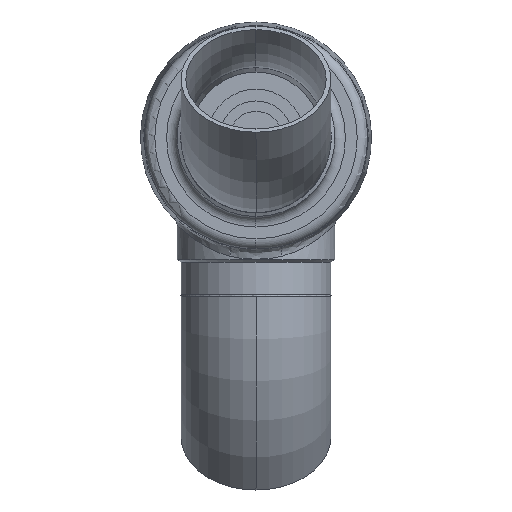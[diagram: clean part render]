
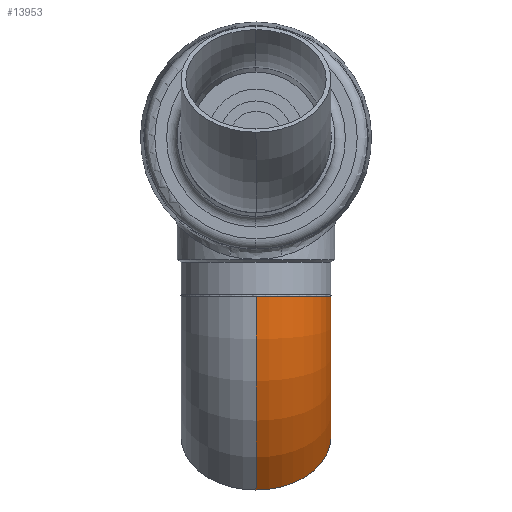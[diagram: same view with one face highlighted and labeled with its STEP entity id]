
A CAD part, front view. The second image highlights one B-rep face of the part: STEP entity #13953.
In plain terms, the highlighted toroidal (fillet/blend) face has major radius 152 mm and minor radius 57.15 mm.
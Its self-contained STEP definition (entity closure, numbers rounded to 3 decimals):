
#148 = VERTEX_POINT ( 'NONE', #15411 ) ;
#361 = EDGE_CURVE ( 'NONE', #1412, #148, #15739, .T. ) ;
#626 = CIRCLE ( 'NONE', #627, 94.85 ) ;
#627 = AXIS2_PLACEMENT_3D ( 'NONE', #628, #629, #630 ) ;
#628 = CARTESIAN_POINT ( 'NONE',  ( 0., -152., 0. ) ) ;
#629 = DIRECTION ( 'NONE',  ( 0., 0., 1. ) ) ;
#630 = DIRECTION ( 'NONE',  ( 1., 0., 0. ) ) ;
#17367 = EDGE_CURVE ( 'NONE', #1234, #18229, #626, .T. ) ;
#1234 = VERTEX_POINT ( 'NONE', #18268 ) ;
#1412 = VERTEX_POINT ( 'NONE', #18358 ) ;
#18229 = VERTEX_POINT ( 'NONE', #7231 ) ;
#18268 = CARTESIAN_POINT ( 'NONE',  ( 67.069, -84.931, 0. ) ) ;
#18358 = CARTESIAN_POINT ( 'NONE',  ( 147.891, -4.109, 0. ) ) ;
#18737 = CIRCLE ( 'NONE', #18738, 57.15 ) ;
#18738 = AXIS2_PLACEMENT_3D ( 'NONE', #18739, #18740, #18741 ) ;
#18739 = CARTESIAN_POINT ( 'NONE',  ( 0., 0., 0. ) ) ;
#18740 = DIRECTION ( 'NONE',  ( 1., 0., 0. ) ) ;
#18741 = DIRECTION ( 'NONE',  ( 0., 0., -1. ) ) ;
#6486 = CIRCLE ( 'NONE', #6487, 57.15 ) ;
#6487 = AXIS2_PLACEMENT_3D ( 'NONE', #6488, #6489, #6490 ) ;
#6488 = CARTESIAN_POINT ( 'NONE',  ( 107.48, -44.52, 0. ) ) ;
#6489 = DIRECTION ( 'NONE',  ( 0.707, -0.707, 0. ) ) ;
#6490 = DIRECTION ( 'NONE',  ( 0., 0., -1. ) ) ;
#7231 = CARTESIAN_POINT ( 'NONE',  ( 0., -57.15, 0. ) ) ;
#8411 = FACE_OUTER_BOUND ( 'NONE', #13724, .T. ) ;
#8412 = TOROIDAL_SURFACE ( 'NONE', #8414, 152., 57.15 ) ;
#8414 = AXIS2_PLACEMENT_3D ( 'NONE', #8415, #8416, #8417 ) ;
#8415 = CARTESIAN_POINT ( 'NONE',  ( 0., -152., 0. ) ) ;
#8416 = DIRECTION ( 'NONE',  ( 0., 0., 1. ) ) ;
#8417 = DIRECTION ( 'NONE',  ( 1., 0., 0. ) ) ;
#10986 = EDGE_CURVE ( 'NONE', #18229, #148, #18737, .T. ) ;
#11345 = ORIENTED_EDGE ( 'NONE', *, *, #10986, .T. ) ;
#11851 = ORIENTED_EDGE ( 'NONE', *, *, #17367, .T. ) ;
#12358 = EDGE_CURVE ( 'NONE', #1234, #1412, #6486, .T. ) ;
#12716 = ORIENTED_EDGE ( 'NONE', *, *, #12358, .F. ) ;
#13215 = ORIENTED_EDGE ( 'NONE', *, *, #361, .F. ) ;
#13724 = EDGE_LOOP ( 'NONE', ( #13215, #12716, #11851, #11345 ) ) ;
#13953 = ADVANCED_FACE ( 'NONE', ( #8411 ), #8412, .T. ) ;
#15411 = CARTESIAN_POINT ( 'NONE',  ( 0., 57.15, 0. ) ) ;
#15739 = CIRCLE ( 'NONE', #15740, 209.15 ) ;
#15740 = AXIS2_PLACEMENT_3D ( 'NONE', #15741, #15742, #15743 ) ;
#15741 = CARTESIAN_POINT ( 'NONE',  ( 0., -152., 0. ) ) ;
#15742 = DIRECTION ( 'NONE',  ( 0., 0., 1. ) ) ;
#15743 = DIRECTION ( 'NONE',  ( 1., 0., 0. ) ) ;
